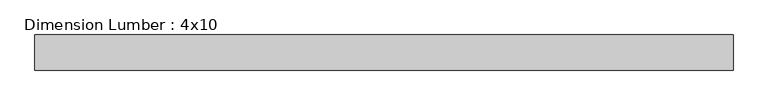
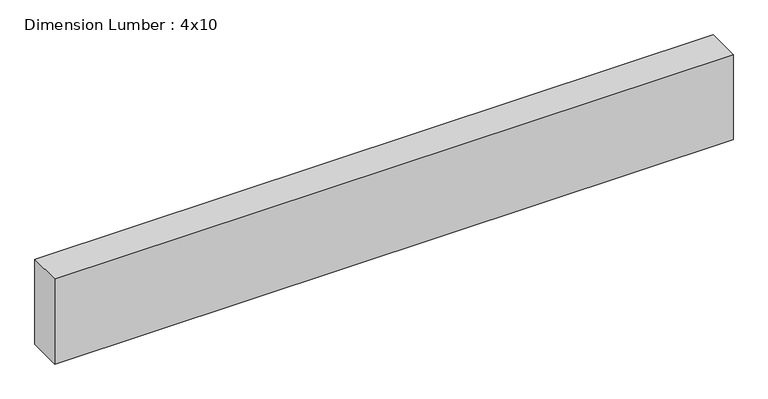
"""IFC4 building model written with IfcOpenShell, lengths in millimetres: beam geometry, Dimension Lumber : 4x10."""

from ifc_helpers import new_model, si_unit, frame, origin, place, context, project, spatial, polyline, outline, extrude, source, transform, mapped, element, save


def dimension_lumber_4x10_6f7111f1(model_context):
    return source(origin(), model_context, "Body", "SweptSolid", [
        extrude(outline(polyline([(882.64, 44.45), (882.64, -44.45), (-882.66, -44.45), (-882.66, 44.45), (882.64, 44.45)])), frame((0.0, 0.0, -117.475), z_axis=(0.0, 0.0, 1.0), x_axis=(1.0, 0.0, 0.0)), (0.0, 0.0, 1.0), 234.95),
    ])


if __name__ == "__main__":
    model = new_model("IFC4")
    model_context = context("Model", 3, world=origin())
    ifc_project = project(units=[si_unit("LENGTHUNIT", "METRE", prefix="MILLI")], contexts=[model_context])
    site = spatial("IfcSite", under=ifc_project)
    building = spatial("IfcBuilding", under=site)
    placement = place(None, origin())
    dimension_lumber_4x10_shape = dimension_lumber_4x10_6f7111f1(model_context)
    element("IfcBeam", 1, ObjectType="Dimension Lumber : 4x10", at=placement, inside=building, context=model_context, shape_type="MappedRepresentation", body=[
        mapped(dimension_lumber_4x10_shape, transform((0.0, 0.0, 0.0), x_axis=(1.0, 0.0, 0.0), y_axis=(0.0, 1.0, 0.0), z_axis=(0.0, 0.0, 1.0))),
    ])
    save(model, "model.ifc")
